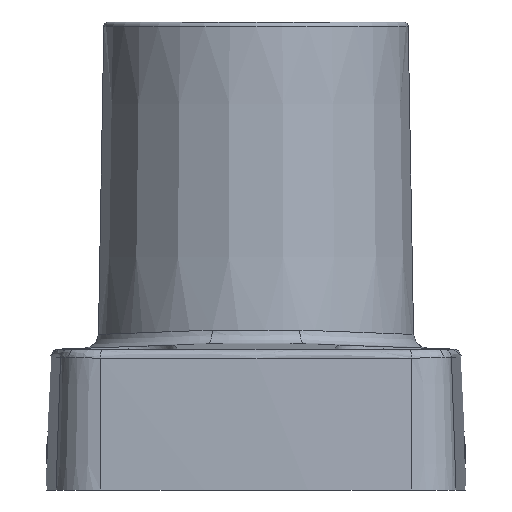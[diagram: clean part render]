
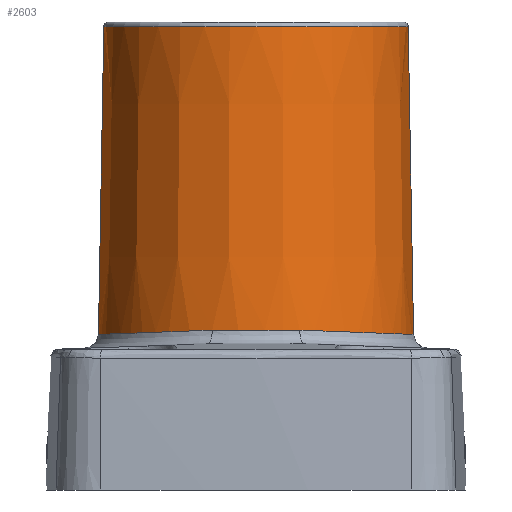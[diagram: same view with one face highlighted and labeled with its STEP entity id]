
A CAD part, front view. The second image highlights one B-rep face of the part: STEP entity #2603.
In plain terms, the highlighted conical face has half-angle 1 degrees and reference radius 32.5 mm.
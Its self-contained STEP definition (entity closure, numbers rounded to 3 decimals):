
#1245=CARTESIAN_POINT('Vertex',(-9.366,-32.32,34.165)) ;
#1249=CARTESIAN_POINT('Control Point',(-9.366,-32.32,34.165)) ;
#1250=CARTESIAN_POINT('Control Point',(-11.41,-31.728,34.087)) ;
#1251=CARTESIAN_POINT('Control Point',(-13.408,-30.976,34.011)) ;
#1252=CARTESIAN_POINT('Control Point',(-15.343,-30.066,33.937)) ;
#1253=CARTESIAN_POINT('Control Point',(-19.883,-27.473,33.765)) ;
#1254=CARTESIAN_POINT('Control Point',(-23.855,-24.046,33.614)) ;
#1255=CARTESIAN_POINT('Control Point',(-25.962,-21.757,33.533)) ;
#1256=CARTESIAN_POINT('Control Point',(-29.614,-16.737,33.395)) ;
#1257=CARTESIAN_POINT('Control Point',(-32.035,-11.019,33.303)) ;
#1258=CARTESIAN_POINT('Control Point',(-32.912,-8.034,33.269)) ;
#1259=CARTESIAN_POINT('Control Point',(-33.503,-4.598,33.247)) ;
#1260=CARTESIAN_POINT('Control Point',(-33.649,-1.138,33.241)) ;
#1261=CARTESIAN_POINT('Control Point',(-33.66,-0.758,33.241)) ;
#1262=CARTESIAN_POINT('Control Point',(-33.665,-0.379,33.241)) ;
#1263=CARTESIAN_POINT('Control Point',(-33.665,0.,33.241)) ;
#1264=CARTESIAN_POINT('Vertex',(-33.665,0.,33.241)) ;
#1766=CARTESIAN_POINT('Vertex',(33.665,0.,33.241)) ;
#1770=CARTESIAN_POINT('Control Point',(33.665,0.,33.241)) ;
#1771=CARTESIAN_POINT('Control Point',(33.665,-2.056,33.241)) ;
#1772=CARTESIAN_POINT('Control Point',(33.508,-4.111,33.247)) ;
#1773=CARTESIAN_POINT('Control Point',(33.194,-6.15,33.258)) ;
#1774=CARTESIAN_POINT('Control Point',(32.023,-11.17,33.303)) ;
#1775=CARTESIAN_POINT('Control Point',(29.915,-15.895,33.383)) ;
#1776=CARTESIAN_POINT('Control Point',(28.33,-18.572,33.443)) ;
#1777=CARTESIAN_POINT('Control Point',(24.573,-23.516,33.586)) ;
#1778=CARTESIAN_POINT('Control Point',(19.796,-27.481,33.768)) ;
#1779=CARTESIAN_POINT('Control Point',(17.19,-29.181,33.867)) ;
#1780=CARTESIAN_POINT('Control Point',(14.005,-30.769,33.988)) ;
#1781=CARTESIAN_POINT('Control Point',(10.661,-31.921,34.115)) ;
#1782=CARTESIAN_POINT('Control Point',(10.232,-32.061,34.132)) ;
#1783=CARTESIAN_POINT('Control Point',(9.8,-32.194,34.148)) ;
#1784=CARTESIAN_POINT('Control Point',(9.366,-32.32,34.165)) ;
#1785=CARTESIAN_POINT('Vertex',(9.366,-32.32,34.165)) ;
#1859=CARTESIAN_POINT('Control Point',(-9.366,-32.32,34.165)) ;
#1860=CARTESIAN_POINT('Control Point',(-7.049,-32.991,34.139)) ;
#1861=CARTESIAN_POINT('Control Point',(-4.673,-33.455,34.122)) ;
#1862=CARTESIAN_POINT('Control Point',(-2.261,-33.704,34.112)) ;
#1863=CARTESIAN_POINT('Control Point',(1.55,-33.754,34.11)) ;
#1864=CARTESIAN_POINT('Control Point',(5.321,-33.27,34.129)) ;
#1865=CARTESIAN_POINT('Control Point',(6.686,-33.022,34.138)) ;
#1866=CARTESIAN_POINT('Control Point',(8.036,-32.705,34.15)) ;
#1867=CARTESIAN_POINT('Control Point',(9.366,-32.32,34.165)) ;
#2571=CARTESIAN_POINT('Axis2P3D Location',(0.,0.,100.)) ;
#2576=CARTESIAN_POINT('Line Origine',(33.108,0.,65.195)) ;
#2580=CARTESIAN_POINT('Vertex',(32.517,0.,99.017)) ;
#2583=CARTESIAN_POINT('Axis2P3D Location',(0.,0.,99.017)) ;
#2587=CARTESIAN_POINT('Vertex',(-32.517,0.,99.017)) ;
#2590=CARTESIAN_POINT('Line Origine',(-33.108,0.,65.195)) ;
#2572=DIRECTION('Axis2P3D Direction',(-0.,-0.,-1.)) ;
#2573=DIRECTION('Axis2P3D XDirection',(-1.,0.,0.)) ;
#2577=DIRECTION('Vector Direction',(0.017,0.,-1.)) ;
#2584=DIRECTION('Axis2P3D Direction',(0.,0.,1.)) ;
#2591=DIRECTION('Vector Direction',(-0.017,0.,-1.)) ;
#2574=AXIS2_PLACEMENT_3D('Cone Axis2P3D',#2571,#2572,#2573) ;
#2585=AXIS2_PLACEMENT_3D('Circle Axis2P3D',#2583,#2584,$) ;
#2596=ORIENTED_EDGE('',*,*,#2582,.T.) ;
#2597=ORIENTED_EDGE('',*,*,#2589,.F.) ;
#2598=ORIENTED_EDGE('',*,*,#2594,.F.) ;
#2599=ORIENTED_EDGE('',*,*,#1266,.T.) ;
#2600=ORIENTED_EDGE('',*,*,#1868,.T.) ;
#2601=ORIENTED_EDGE('',*,*,#1787,.T.) ;
#2578=VECTOR('Line Direction',#2577,1.) ;
#2592=VECTOR('Line Direction',#2591,1.) ;
#2603=ADVANCED_FACE('PartBody',(#2602),#2575,.T.) ;
#1248=B_SPLINE_CURVE_WITH_KNOTS('',5,(#1249,#1250,#1251,#1252,#1253,#1254,#1255,#1256,#1257,#1258,#1259,#1260,#1261,#1262,#1263),.UNSPECIFIED.,.F.,.U.,(6,3,3,3,6),(121.538,137.04,159.489,181.933,184.693),.UNSPECIFIED.) ;
#1769=B_SPLINE_CURVE_WITH_KNOTS('',5,(#1770,#1771,#1772,#1773,#1774,#1775,#1776,#1777,#1778,#1779,#1780,#1781,#1782,#1783,#1784),.UNSPECIFIED.,.F.,.U.,(6,3,3,3,6),(75.599,90.557,113.003,135.463,138.754),.UNSPECIFIED.) ;
#1858=B_SPLINE_CURVE_WITH_KNOTS('',5,(#1859,#1860,#1861,#1862,#1863,#1864,#1865,#1866,#1867),.UNSPECIFIED.,.F.,.U.,(6,3,6),(93.927,111.482,121.561),.UNSPECIFIED.) ;
#2586=CIRCLE('generated circle',#2585,32.517) ;
#2575=CONICAL_SURFACE('Cone',#2574,32.5,0.017) ;
#1266=EDGE_CURVE('',#1265,#1246,#1248,.F.) ;
#1787=EDGE_CURVE('',#1786,#1767,#1769,.F.) ;
#1868=EDGE_CURVE('',#1246,#1786,#1858,.T.) ;
#2582=EDGE_CURVE('',#1767,#2581,#2579,.F.) ;
#2589=EDGE_CURVE('',#2588,#2581,#2586,.T.) ;
#2594=EDGE_CURVE('',#1265,#2588,#2593,.F.) ;
#2595=EDGE_LOOP('',(#2596,#2597,#2598,#2599,#2600,#2601)) ;
#2602=FACE_OUTER_BOUND('',#2595,.T.) ;
#2579=LINE('Line',#2576,#2578) ;
#2593=LINE('Line',#2590,#2592) ;
#1246=VERTEX_POINT('',#1245) ;
#1265=VERTEX_POINT('',#1264) ;
#1767=VERTEX_POINT('',#1766) ;
#1786=VERTEX_POINT('',#1785) ;
#2581=VERTEX_POINT('',#2580) ;
#2588=VERTEX_POINT('',#2587) ;
